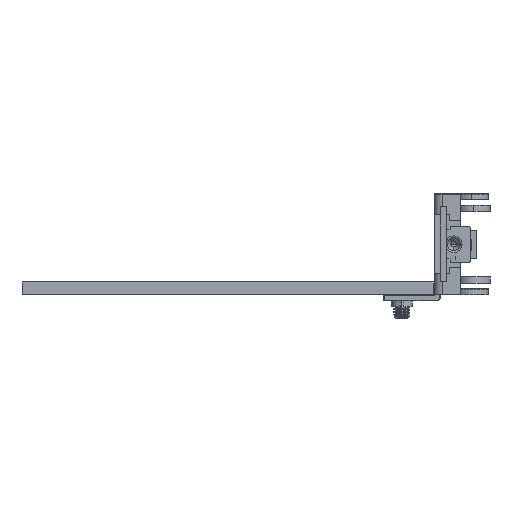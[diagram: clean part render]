
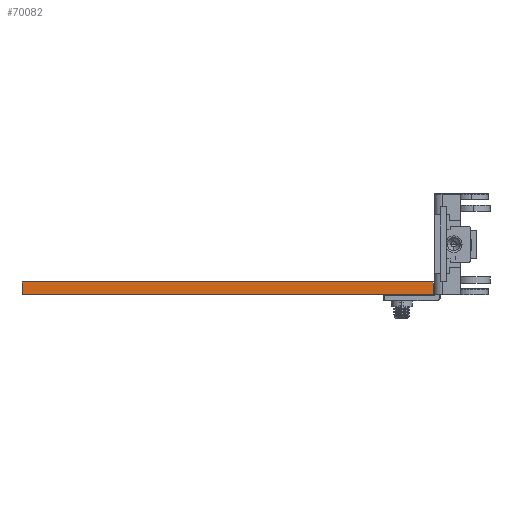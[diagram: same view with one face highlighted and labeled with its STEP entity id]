
A CAD part, front view. The second image highlights one B-rep face of the part: STEP entity #70082.
In plain terms, the highlighted planar face has unit normal (0, -1, 0).
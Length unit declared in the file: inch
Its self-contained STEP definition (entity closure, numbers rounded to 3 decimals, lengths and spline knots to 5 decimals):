
#3318 = LINE ( 'NONE', #101560, #93109 ) ;
#3425 = CARTESIAN_POINT ( 'NONE',  ( 0., -3., 0.125 ) ) ;
#4731 = LINE ( 'NONE', #3425, #92419 ) ;
#4778 = FACE_OUTER_BOUND ( 'NONE', #142011, .T. ) ;
#6644 = EDGE_CURVE ( 'NONE', #68375, #162561, #39705, .T. ) ;
#7148 = DIRECTION ( 'NONE',  ( 0., 1., 0. ) ) ;
#10878 = CARTESIAN_POINT ( 'NONE',  ( -2., -3., 0. ) ) ;
#19218 = VECTOR ( 'NONE', #85155, 39.37008 ) ;
#26025 = LINE ( 'NONE', #116169, #168798 ) ;
#28361 = ORIENTED_EDGE ( 'NONE', *, *, #160626, .T. ) ;
#28753 = CARTESIAN_POINT ( 'NONE',  ( 2., -3., 0.125 ) ) ;
#33338 = CARTESIAN_POINT ( 'NONE',  ( 2., -3., 0.125 ) ) ;
#39705 = LINE ( 'NONE', #33338, #19218 ) ;
#45849 = EDGE_CURVE ( 'NONE', #150713, #71591, #26025, .T. ) ;
#48427 = ORIENTED_EDGE ( 'NONE', *, *, #50300, .F. ) ;
#50300 = EDGE_CURVE ( 'NONE', #150713, #68375, #4731, .T. ) ;
#53064 = DIRECTION ( 'NONE',  ( 0., 0., -1. ) ) ;
#54052 = ORIENTED_EDGE ( 'NONE', *, *, #6644, .F. ) ;
#62858 = DIRECTION ( 'NONE',  ( 1., 0., 0. ) ) ;
#68375 = VERTEX_POINT ( 'NONE', #28753 ) ;
#70082 = ADVANCED_FACE ( 'NONE', ( #4778 ), #163385, .F. ) ;
#71591 = VERTEX_POINT ( 'NONE', #10878 ) ;
#85155 = DIRECTION ( 'NONE',  ( 0., 0., -1. ) ) ;
#85283 = CARTESIAN_POINT ( 'NONE',  ( 2., -3., 0. ) ) ;
#92419 = VECTOR ( 'NONE', #94627, 39.37008 ) ;
#93109 = VECTOR ( 'NONE', #62858, 39.37008 ) ;
#94627 = DIRECTION ( 'NONE',  ( 1., 0., 0. ) ) ;
#98324 = DIRECTION ( 'NONE',  ( 0., 0., 1. ) ) ;
#101560 = CARTESIAN_POINT ( 'NONE',  ( 0., -3., 0. ) ) ;
#113689 = AXIS2_PLACEMENT_3D ( 'NONE', #123425, #7148, #98324 ) ;
#114427 = ORIENTED_EDGE ( 'NONE', *, *, #45849, .T. ) ;
#116169 = CARTESIAN_POINT ( 'NONE',  ( -2., -3., 0.125 ) ) ;
#123425 = CARTESIAN_POINT ( 'NONE',  ( 0., -3., 0.125 ) ) ;
#142011 = EDGE_LOOP ( 'NONE', ( #28361, #54052, #48427, #114427 ) ) ;
#150713 = VERTEX_POINT ( 'NONE', #153898 ) ;
#153898 = CARTESIAN_POINT ( 'NONE',  ( -2., -3., 0.125 ) ) ;
#160626 = EDGE_CURVE ( 'NONE', #71591, #162561, #3318, .T. ) ;
#162561 = VERTEX_POINT ( 'NONE', #85283 ) ;
#163385 = PLANE ( 'NONE',  #113689 ) ;
#168798 = VECTOR ( 'NONE', #53064, 39.37008 ) ;
